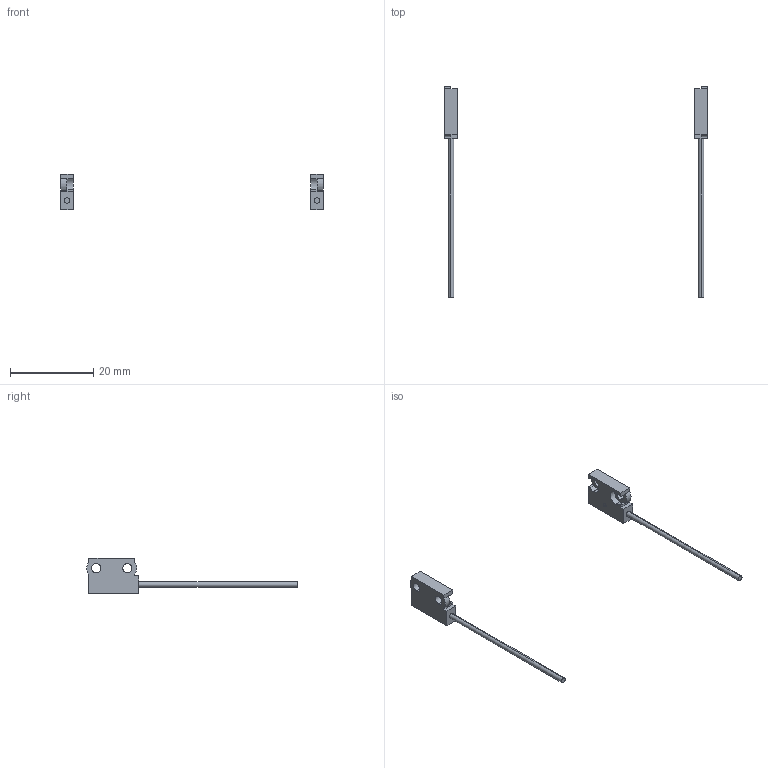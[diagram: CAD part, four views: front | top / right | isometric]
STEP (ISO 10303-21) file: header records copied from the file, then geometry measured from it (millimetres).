
FILE_DESCRIPTION (( 'STEP AP203' ), '1' );
FILE_NAME ('FT-Z8.STEP', '2005-09-09T04:31:26', ( ' ' ), ( ' ' ), 'SwSTEP 2.0', 'SolidWorks 2004073', '' );
FILE_SCHEMA (( 'CONFIG_CONTROL_DESIGN' ));
Length unit declared in the file: millimetre
Products named in the file (3): FT-Z8; FT-Z8P_蹬怮椔; FT-Z8D_蹬怮椔
Assembly tree (2 placements, depth 2):
  FT-Z8
    FT-Z8P_蹬怮椔
    FT-Z8D_蹬怮椔
Bounding box: 63 x 50.5 x 8.5 mm (x, y, z)
Volume: 607.5 mm3; surface area: 1009.3 mm2
Topology: 2 solids, 2 shells, 68 faces, 180 edges, 120 vertices
Faces by surface type: plane 36, cylinder 32
Entity records: 2449 total; most frequent: DIRECTION 390, CARTESIAN_POINT 373, ORIENTED_EDGE 360, EDGE_CURVE 180, AXIS2_PLACEMENT_3D 137, VERTEX_POINT 120, VECTOR 116, LINE 116
